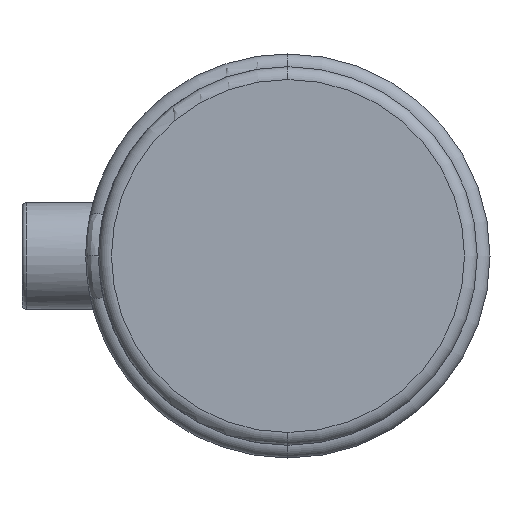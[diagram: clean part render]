
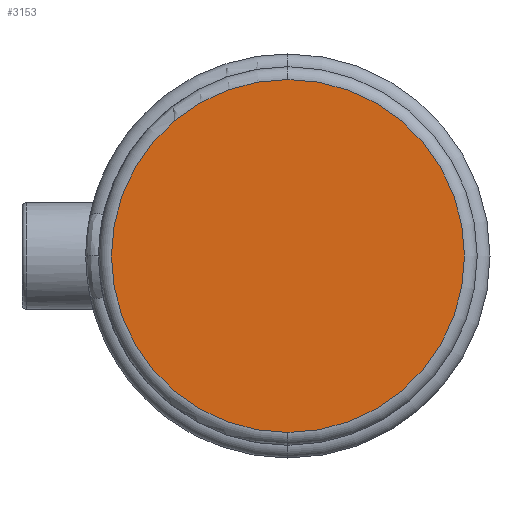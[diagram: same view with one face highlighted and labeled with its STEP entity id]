
A CAD part, left-side view. The second image highlights one B-rep face of the part: STEP entity #3153.
In plain terms, the highlighted planar face has unit normal (-1, 0, 0).
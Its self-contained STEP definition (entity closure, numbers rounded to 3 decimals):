
#141 = DIRECTION ( 'NONE',  ( -1., 0., 0. ) ) ;
#845 = CARTESIAN_POINT ( 'NONE',  ( 0., 0., 41.45 ) ) ;
#1033 = VERTEX_POINT ( 'NONE', #3593 ) ;
#1147 = AXIS2_PLACEMENT_3D ( 'NONE', #2905, #141, #3368 ) ;
#1254 = CIRCLE ( 'NONE', #2369, 41.45 ) ;
#1272 = VERTEX_POINT ( 'NONE', #845 ) ;
#1536 = CIRCLE ( 'NONE', #1147, 41.45 ) ;
#1748 = CARTESIAN_POINT ( 'NONE',  ( 0., 0., 0. ) ) ;
#1966 = ORIENTED_EDGE ( 'NONE', *, *, #2658, .T. ) ;
#2212 = DIRECTION ( 'NONE',  ( 0., 0., 1. ) ) ;
#2369 = AXIS2_PLACEMENT_3D ( 'NONE', #5469, #2683, #5946 ) ;
#2585 = EDGE_CURVE ( 'NONE', #1033, #1272, #1536, .T. ) ;
#2658 = EDGE_CURVE ( 'NONE', #1272, #1033, #1254, .T. ) ;
#2683 = DIRECTION ( 'NONE',  ( -1., 0., 0. ) ) ;
#2905 = CARTESIAN_POINT ( 'NONE',  ( 0., 0., 0. ) ) ;
#3153 = ADVANCED_FACE ( 'NONE', ( #5145 ), #4530, .T. ) ;
#3368 = DIRECTION ( 'NONE',  ( 0., 0., 1. ) ) ;
#3593 = CARTESIAN_POINT ( 'NONE',  ( 0., 0., -41.45 ) ) ;
#4386 = ORIENTED_EDGE ( 'NONE', *, *, #2585, .T. ) ;
#4530 = PLANE ( 'NONE',  #5055 ) ;
#4675 = EDGE_LOOP ( 'NONE', ( #1966, #4386 ) ) ;
#4993 = DIRECTION ( 'NONE',  ( -1., 0., 0. ) ) ;
#5055 = AXIS2_PLACEMENT_3D ( 'NONE', #1748, #4993, #2212 ) ;
#5145 = FACE_OUTER_BOUND ( 'NONE', #4675, .T. ) ;
#5469 = CARTESIAN_POINT ( 'NONE',  ( 0., 0., 0. ) ) ;
#5946 = DIRECTION ( 'NONE',  ( 0., 0., 1. ) ) ;
